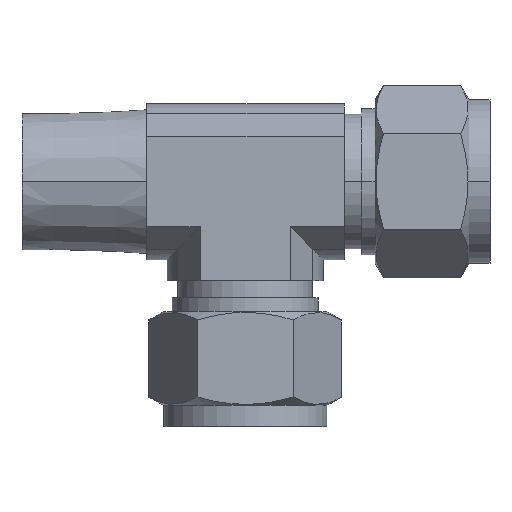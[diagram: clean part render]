
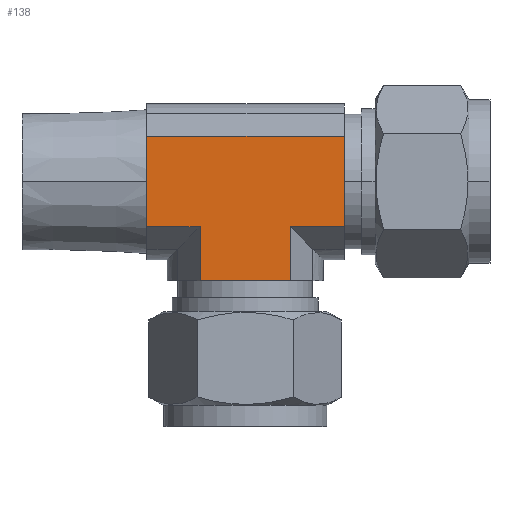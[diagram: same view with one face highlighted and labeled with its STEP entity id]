
A CAD part, top view. The second image highlights one B-rep face of the part: STEP entity #138.
In plain terms, the highlighted planar face has unit normal (0, 0, 1).
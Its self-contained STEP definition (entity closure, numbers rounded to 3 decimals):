
#51 = EDGE_CURVE ( 'NONE', #176, #104, #990, .T. ) ;
#60 = VERTEX_POINT ( 'NONE', #970 ) ;
#62 = EDGE_CURVE ( 'NONE', #166, #63, #969, .T. ) ;
#63 = VERTEX_POINT ( 'NONE', #819 ) ;
#66 = ORIENTED_EDGE ( 'NONE', *, *, #62, .F. ) ;
#80 = VERTEX_POINT ( 'NONE', #937 ) ;
#85 = EDGE_CURVE ( 'NONE', #80, #166, #931, .T. ) ;
#104 = VERTEX_POINT ( 'NONE', #897 ) ;
#136 = EDGE_CURVE ( 'NONE', #60, #63, #1205, .T. ) ;
#138 = ADVANCED_FACE ( 'NONE', ( #1201 ), #1200, .F. ) ;
#139 = EDGE_LOOP ( 'NONE', ( #140, #141, #143, #144, #146, #147, #148, #66 ) ) ;
#140 = ORIENTED_EDGE ( 'NONE', *, *, #85, .F. ) ;
#141 = ORIENTED_EDGE ( 'NONE', *, *, #142, .F. ) ;
#142 = EDGE_CURVE ( 'NONE', #539, #80, #1195, .T. ) ;
#143 = ORIENTED_EDGE ( 'NONE', *, *, #526, .F. ) ;
#144 = ORIENTED_EDGE ( 'NONE', *, *, #145, .T. ) ;
#145 = EDGE_CURVE ( 'NONE', #524, #104, #1191, .T. ) ;
#146 = ORIENTED_EDGE ( 'NONE', *, *, #51, .F. ) ;
#147 = ORIENTED_EDGE ( 'NONE', *, *, #175, .F. ) ;
#148 = ORIENTED_EDGE ( 'NONE', *, *, #136, .T. ) ;
#166 = VERTEX_POINT ( 'NONE', #1075 ) ;
#175 = EDGE_CURVE ( 'NONE', #60, #176, #1253, .T. ) ;
#176 = VERTEX_POINT ( 'NONE', #1246 ) ;
#524 = VERTEX_POINT ( 'NONE', #1838 ) ;
#526 = EDGE_CURVE ( 'NONE', #524, #539, #1922, .T. ) ;
#539 = VERTEX_POINT ( 'NONE', #1892 ) ;
#819 = CARTESIAN_POINT ( 'NONE',  ( -15., 6.87, 11.9 ) ) ;
#820 = DIRECTION ( 'NONE',  ( 0., 1., 0. ) ) ;
#821 = VECTOR ( 'NONE', #820, 1000. ) ;
#897 = CARTESIAN_POINT ( 'NONE',  ( 6.87, -6.87, 11.9 ) ) ;
#928 = DIRECTION ( 'NONE',  ( -1., 0., 0. ) ) ;
#929 = VECTOR ( 'NONE', #928, 1000. ) ;
#930 = CARTESIAN_POINT ( 'NONE',  ( 15.1, -6.87, 11.9 ) ) ;
#931 = LINE ( 'NONE', #930, #929 ) ;
#937 = CARTESIAN_POINT ( 'NONE',  ( -6.87, -6.87, 11.9 ) ) ;
#968 = CARTESIAN_POINT ( 'NONE',  ( -15., -6.87, 11.9 ) ) ;
#969 = LINE ( 'NONE', #968, #821 ) ;
#970 = CARTESIAN_POINT ( 'NONE',  ( 15.1, 6.87, 11.9 ) ) ;
#987 = DIRECTION ( 'NONE',  ( -1., 0., 0. ) ) ;
#988 = VECTOR ( 'NONE', #987, 1000. ) ;
#989 = CARTESIAN_POINT ( 'NONE',  ( 15.1, -6.87, 11.9 ) ) ;
#990 = LINE ( 'NONE', #989, #988 ) ;
#1075 = CARTESIAN_POINT ( 'NONE',  ( -15., -6.87, 11.9 ) ) ;
#1188 = DIRECTION ( 'NONE',  ( 0., 1., 0. ) ) ;
#1189 = VECTOR ( 'NONE', #1188, 1000. ) ;
#1190 = CARTESIAN_POINT ( 'NONE',  ( 6.87, -15.1, 11.9 ) ) ;
#1191 = LINE ( 'NONE', #1190, #1189 ) ;
#1192 = DIRECTION ( 'NONE',  ( 0., 1., 0. ) ) ;
#1193 = VECTOR ( 'NONE', #1192, 1000. ) ;
#1194 = CARTESIAN_POINT ( 'NONE',  ( -6.87, -15.1, 11.9 ) ) ;
#1195 = LINE ( 'NONE', #1194, #1193 ) ;
#1196 = DIRECTION ( 'NONE',  ( 0., 1., 0. ) ) ;
#1197 = DIRECTION ( 'NONE',  ( 0., 0., -1. ) ) ;
#1198 = AXIS2_PLACEMENT_3D ( 'NONE', #1199, #1197, #1196 ) ;
#1199 = CARTESIAN_POINT ( 'NONE',  ( 15.1, 6.87, 11.9 ) ) ;
#1200 = PLANE ( 'NONE',  #1198 ) ;
#1201 = FACE_OUTER_BOUND ( 'NONE', #139, .T. ) ;
#1202 = DIRECTION ( 'NONE',  ( -1., 0., 0. ) ) ;
#1203 = VECTOR ( 'NONE', #1202, 1000. ) ;
#1204 = CARTESIAN_POINT ( 'NONE',  ( 15.1, 6.87, 11.9 ) ) ;
#1205 = LINE ( 'NONE', #1204, #1203 ) ;
#1246 = CARTESIAN_POINT ( 'NONE',  ( 15.1, -6.87, 11.9 ) ) ;
#1247 = DIRECTION ( 'NONE',  ( 0., -1., 0. ) ) ;
#1248 = VECTOR ( 'NONE', #1247, 1000. ) ;
#1249 = CARTESIAN_POINT ( 'NONE',  ( 15.1, 6.87, 11.9 ) ) ;
#1253 = LINE ( 'NONE', #1249, #1248 ) ;
#1838 = CARTESIAN_POINT ( 'NONE',  ( 6.87, -15.1, 11.9 ) ) ;
#1892 = CARTESIAN_POINT ( 'NONE',  ( -6.87, -15.1, 11.9 ) ) ;
#1919 = DIRECTION ( 'NONE',  ( -1., 0., 0. ) ) ;
#1920 = VECTOR ( 'NONE', #1919, 1000. ) ;
#1921 = CARTESIAN_POINT ( 'NONE',  ( 6.87, -15.1, 11.9 ) ) ;
#1922 = LINE ( 'NONE', #1921, #1920 ) ;
